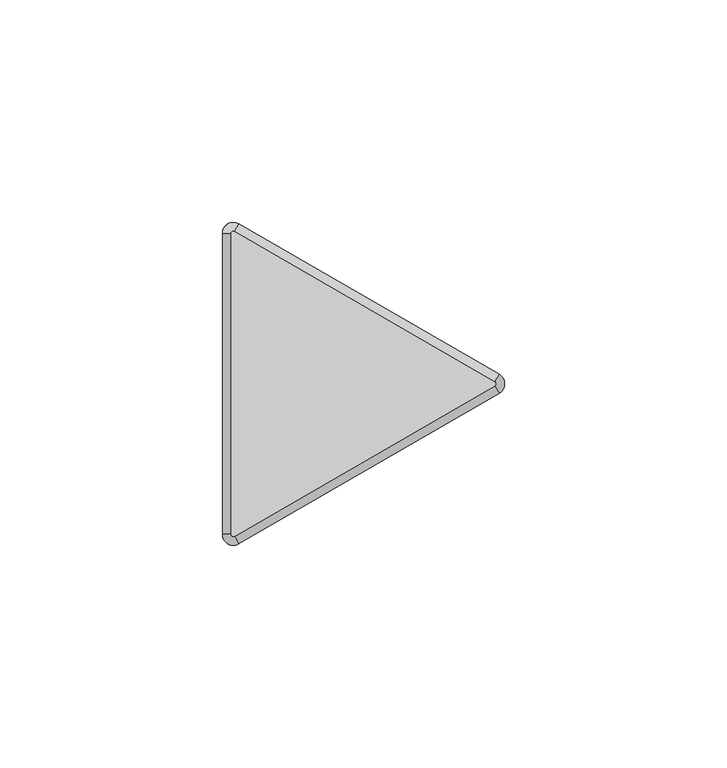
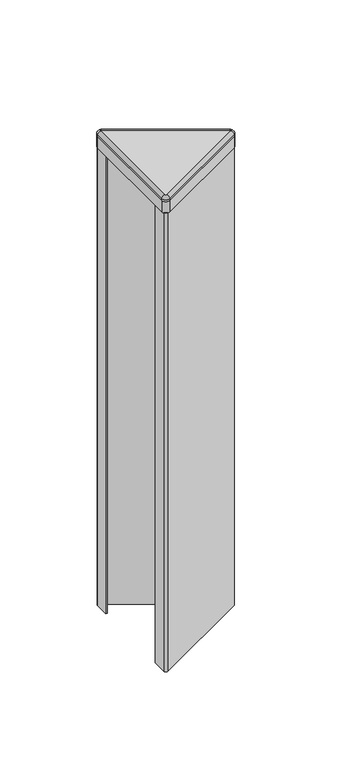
"""IFC4 building model written with IfcOpenShell, lengths in millimetres: furniture geometry, Steelcase - Answer Solution - Panel - 120deg Change-of-Height Trim - Thin : Y Corner - 12H for 54H App."""

import ifcopenshell
import ifcopenshell.guid

model = None  # the IFC model being written
_history = None  # IfcOwnerHistory: only IFC2X3 demands one
_inside = {}  # id of a spatial element -> (the spatial element, [elements in it])
_under = {}  # id of a project, library or spatial element -> (it, [spatial elements below it])
_declared = {}  # id of a project -> (the project, [libraries it declares])
_typed = {}  # id of a type object -> (the type object, [elements of that type])
_made_of = {}  # id of a material, layer set ... -> (it, [elements and type objects made of it])


def new_model(schema):
    """Start an empty IFC model of exactly this schema.

    Asked for "IFC4X3", IfcOpenShell would pick the latest addendum, in which some entities
    have other attributes; the version numbers below select the first issue.
    IFC2X3 requires an IfcOwnerHistory on every rooted entity: one is made here for all.
    """
    global model, _history
    if schema == "IFC4X3":
        model = ifcopenshell.file(schema_version=(4, 3, 0, 0))
    else:
        model = ifcopenshell.file(schema=schema)
    _inside.clear()
    _under.clear()
    _declared.clear()
    _typed.clear()
    _made_of.clear()
    _history = None
    if model.schema == "IFC2X3":
        org = make("IfcOrganization", Name="unknown")
        user = make(
            "IfcPersonAndOrganization",
            ThePerson=make("IfcPerson", FamilyName="unknown"),
            TheOrganization=org,
        )
        app = make(
            "IfcApplication",
            ApplicationDeveloper=org,
            Version="unknown",
            ApplicationFullName="unknown",
            ApplicationIdentifier="unknown",
        )
        _history = make(
            "IfcOwnerHistory",
            OwningUser=user,
            OwningApplication=app,
            ChangeAction="ADDED",
            CreationDate=0,
        )
    return model


def make(cls, **values):
    """One entity of the class cls with the attributes given. An attribute that is None is left unset."""
    return model.create_entity(
        cls, **{name: value for name, value in values.items() if value is not None}
    )


def rooted(cls, **values):
    """An entity with a GlobalId (a new one), such as an element, a storey or a relation."""
    return make(cls, GlobalId=ifcopenshell.guid.new(), OwnerHistory=_history, **values)


def si_unit(unit_type, name, prefix=None):
    """IfcSIUnit, for example si_unit("LENGTHUNIT", "METRE", prefix="MILLI")."""
    return make("IfcSIUnit", UnitType=unit_type, Prefix=prefix, Name=name)


def assignment(units):
    """IfcUnitAssignment: the units of a project."""
    return None if units is None else make("IfcUnitAssignment", Units=units)


def point(xyz):
    """IfcCartesianPoint."""
    return None if xyz is None else make("IfcCartesianPoint", Coordinates=xyz)


def direction(xyz):
    """IfcDirection."""
    return None if xyz is None else make("IfcDirection", DirectionRatios=xyz)


def frame(location, z_axis=None, x_axis=None):
    """IfcAxis2Placement3D, a coordinate frame: its origin and axes. An axis left out is left unset."""
    return make(
        "IfcAxis2Placement3D",
        Location=point(location),
        Axis=direction(z_axis),
        RefDirection=direction(x_axis),
    )


def frame_2d(location, x_axis=None):
    """IfcAxis2Placement2D, a coordinate frame in the plane: its origin and x axis."""
    return make(
        "IfcAxis2Placement2D", Location=point(location), RefDirection=direction(x_axis)
    )


def origin():
    """The frame at (0, 0, 0) with its axes left unset."""
    return frame((0.0, 0.0, 0.0))


def place(relative_to, where):
    """IfcLocalPlacement: puts the frame where relative to a parent placement (None: the world)."""
    return make(
        "IfcLocalPlacement", PlacementRelTo=relative_to, RelativePlacement=where
    )


def context(
    kind, dimensions, precision=None, world=None, true_north=None, identifier=None
):
    """IfcGeometricRepresentationContext, for example the 3D "Model" context."""
    return make(
        "IfcGeometricRepresentationContext",
        ContextIdentifier=identifier,
        ContextType=kind,
        CoordinateSpaceDimension=dimensions,
        Precision=precision,
        WorldCoordinateSystem=world,
        TrueNorth=true_north,
    )


def project(units=None, contexts=None):
    """IfcProject with its units and contexts."""
    return rooted(
        "IfcProject",
        Name="project",
        RepresentationContexts=contexts,
        UnitsInContext=assignment(units),
    )


def spatial(cls, under=None, at=None, **own):
    """A site, building, storey or space (cls), placed at a placement, below another one or the project."""
    s = rooted(cls, ObjectPlacement=at, **own)
    if under is not None:
        _under.setdefault(under.id(), (under, []))[1].append(s)
    return s


def polyline(points):
    """IfcPolyline through the points."""
    return make("IfcPolyline", Points=[point(p) for p in points])


def circle_curve(where, radius):
    """IfcCircle in the frame where."""
    return make("IfcCircle", Position=where, Radius=radius)


def ellipse_curve(where, semi_axis1, semi_axis2):
    """IfcEllipse in the frame where."""
    return make(
        "IfcEllipse", Position=where, SemiAxis1=semi_axis1, SemiAxis2=semi_axis2
    )


def trimmed(basis, trim1, trim2, sense, master):
    """IfcTrimmedCurve: the piece of a basis curve between two trims."""
    return make(
        "IfcTrimmedCurve",
        BasisCurve=basis,
        Trim1=trim1,
        Trim2=trim2,
        SenseAgreement=sense,
        MasterRepresentation=master,
    )


def segment(curve, same_sense, transition):
    """IfcCompositeCurveSegment."""
    return make(
        "IfcCompositeCurveSegment",
        Transition=transition,
        SameSense=same_sense,
        ParentCurve=curve,
    )


def composite_curve(segments, self_intersect=None):
    """IfcCompositeCurve: segments joined end to end."""
    return make("IfcCompositeCurve", Segments=segments, SelfIntersect=self_intersect)


def outline(outer, holes=None, kind="AREA"):
    """IfcArbitraryClosedProfileDef: a profile drawn as a closed curve; with holes, ...WithVoids."""
    if holes is None:
        return make("IfcArbitraryClosedProfileDef", ProfileType=kind, OuterCurve=outer)
    return make(
        "IfcArbitraryProfileDefWithVoids",
        ProfileType=kind,
        OuterCurve=outer,
        InnerCurves=holes,
    )


def extrude(swept, where, along, depth):
    """IfcExtrudedAreaSolid: the profile swept, set in the frame where, extruded along a direction by depth."""
    return make(
        "IfcExtrudedAreaSolid",
        SweptArea=swept,
        Position=where,
        ExtrudedDirection=direction(along),
        Depth=depth,
    )


def shape(context_of_items, identifier, shape_type, items):
    """IfcShapeRepresentation: the items that make up one representation, for example the "Body"."""
    return make(
        "IfcShapeRepresentation",
        ContextOfItems=context_of_items,
        RepresentationIdentifier=identifier,
        RepresentationType=shape_type,
        Items=items,
    )


def source(mapping_origin, context_of_items, identifier, shape_type, items):
    """IfcRepresentationMap: a shape defined once, which mapped items show again and again."""
    return make(
        "IfcRepresentationMap",
        MappingOrigin=mapping_origin,
        MappedRepresentation=shape(context_of_items, identifier, shape_type, items),
    )


def transform(
    local_origin,
    x_axis=None,
    y_axis=None,
    z_axis=None,
    scale=None,
    scale2=None,
    scale3=None,
    uniform=True,
):
    """IfcCartesianTransformationOperator3D, or its non-uniform kind. x_axis, y_axis, z_axis: its Axis1, 2, 3."""
    if uniform:
        return make(
            "IfcCartesianTransformationOperator3D",
            Axis1=direction(x_axis),
            Axis2=direction(y_axis),
            LocalOrigin=point(local_origin),
            Scale=scale,
            Axis3=direction(z_axis),
        )
    return make(
        "IfcCartesianTransformationOperator3DnonUniform",
        Axis1=direction(x_axis),
        Axis2=direction(y_axis),
        LocalOrigin=point(local_origin),
        Scale=scale,
        Axis3=direction(z_axis),
        Scale2=scale2,
        Scale3=scale3,
    )


def mapped(mapping_source, mapping_target):
    """IfcMappedItem: shows the shape of a source again, moved by a transform."""
    return make(
        "IfcMappedItem", MappingSource=mapping_source, MappingTarget=mapping_target
    )


def made_of(thing, what):
    """Note that an element or type object is made of a material, layer set ...; save() writes the relation."""
    if what is not None:
        _made_of.setdefault(what.id(), (what, []))[1].append(thing)
    return thing


def element(
    cls,
    number,
    at=None,
    inside=None,
    cuts=None,
    type_object=None,
    material=None,
    context=None,
    identifier="Body",
    shape_type=None,
    held_by="IfcProductDefinitionShape",
    body=None,
    shapes=None,
    **own,
):
    """One element of the class cls, such as IfcWall. Its Tag is "e" and its number.

    at: its placement. inside: the storey or other place that contains it. cuts: it is an
    opening in that element (IfcRelVoidsElement). A single representation is given by context,
    identifier, shape_type and body (its items); several are given by shapes. held_by: the class
    of the entity that holds the representations. save() writes the other relations.
    """
    e = rooted(cls, Tag="e%d" % number, ObjectPlacement=at, **own)
    if body is not None:
        shapes = [shape(context, identifier, shape_type, body)]
    if shapes is not None:
        e.Representation = make(held_by, Representations=shapes)
    if inside is not None:
        _inside.setdefault(inside.id(), (inside, []))[1].append(e)
    if cuts is not None:
        rooted(
            "IfcRelVoidsElement", RelatingBuildingElement=cuts, RelatedOpeningElement=e
        )
    if type_object is not None:
        _typed.setdefault(type_object.id(), (type_object, []))[1].append(e)
    return made_of(e, material)


def aggregate(whole, parts):
    """IfcRelAggregates: a whole, such as a stair, and the parts it consists of."""
    return rooted("IfcRelAggregates", RelatingObject=whole, RelatedObjects=parts)


def save(model, path):
    """Write the relations noted so far, then the file.

    IfcRelAggregates (storeys below a building ...), IfcRelContainedInSpatialStructure (elements
    in a storey), IfcRelDefinesByType, IfcRelAssociatesMaterial and IfcRelDeclares: one each for
    every whole, place, type object, material and project.
    """
    for whole, parts in _under.values():
        aggregate(whole, parts)
    for where, things in _inside.values():
        rooted(
            "IfcRelContainedInSpatialStructure",
            RelatedElements=things,
            RelatingStructure=where,
        )
    for kind, things in _typed.values():
        rooted("IfcRelDefinesByType", RelatedObjects=things, RelatingType=kind)
    for what, things in _made_of.values():
        rooted("IfcRelAssociatesMaterial", RelatedObjects=things, RelatingMaterial=what)
    for by, libraries in _declared.values():
        rooted("IfcRelDeclares", RelatingContext=by, RelatedDefinitions=libraries)
    model.write(path)


def plane_surface(at):
    """IfcPlane: the flat surface through the origin of the frame at, square to its z axis."""
    return make("IfcPlane", Position=at)


def cylinder_surface(at, radius):
    """IfcCylindricalSurface: all points at the distance radius from the z axis of the frame at."""
    return make("IfcCylindricalSurface", Position=at, Radius=radius)


def revolved_surface(curve, axis_point, axis_direction):
    """IfcSurfaceOfRevolution: the curve turned about the line through axis_point along axis_direction."""
    return make(
        "IfcSurfaceOfRevolution",
        SweptCurve=make("IfcArbitraryOpenProfileDef", ProfileType="CURVE", Curve=curve),
        AxisPosition=make("IfcAxis1Placement", Location=point(axis_point), Axis=direction(axis_direction)),
    )


def advanced_brep(points, edges, surfaces, faces):
    """IfcAdvancedBrep: a solid bounded by faces that lie on surfaces and meet in shared edges.

    An edge is (start, end): straight between two places in points (the first is 0);
    or (start, end, curve); or (start, end, curve, False) where it runs against its curve.
    A face is (place in surfaces, loops), or (place, loops, False) where it looks against
    its surface's normal. A loop lists edges by number (the first is 1), with a minus sign
    where the edge is run from its end to its start. The first loop is the outer one.
    """
    corners = [point(p) for p in points]
    vertices = [make("IfcVertexPoint", VertexGeometry=c) for c in corners]
    made = []
    for start, end, *more in edges:
        made.append(
            make(
                "IfcEdgeCurve",
                EdgeStart=vertices[start],
                EdgeEnd=vertices[end],
                EdgeGeometry=more[0] if more else make("IfcPolyline", Points=[corners[start], corners[end]]),
                SameSense=more[1] if len(more) > 1 else True,
            )
        )
    hull = []
    for where, loops, *sense in faces:
        bounds = []
        for j, loop in enumerate(loops):
            ring = [make("IfcOrientedEdge", EdgeElement=made[abs(k) - 1], Orientation=k > 0) for k in loop]
            bounds.append(
                make(
                    "IfcFaceOuterBound" if j == 0 else "IfcFaceBound",
                    Bound=make("IfcEdgeLoop", EdgeList=ring),
                    Orientation=True,
                )
            )
        hull.append(make("IfcAdvancedFace", Bounds=bounds, FaceSurface=surfaces[where], SameSense=sense[0] if sense else True))
    return make("IfcAdvancedBrep", Outer=make("IfcClosedShell", CfsFaces=hull))


def furniture_3466ec60(model_context):
    return source(origin(), model_context, "Body", "SolidModel", [
        advanced_brep(
        [(-10.518645, -37.3335529, 1376.0628978), (-14.2052101, -35.2051135, 1376.0628978), (-14.2052101, -35.2051135, 1375.1164663), (-10.518645, -37.3335529, 1375.1164663), (-11.46175, -35.7000471, 1377.95), (-12.319, -35.2051135, 1377.95), (-11.46175, -35.7000471, 1375.1164663), (-12.319, -35.2051135, 1375.1164663), (48.0429908, -3.5229767, 1375.1164663), (48.0429908, -3.5229767, 1376.0628978), (47.0998858, -1.8894709, 1377.95), (47.0998858, -1.8894709, 1375.1164663), (48.0429908, 0.733902, 1376.0628978), (48.0429908, 0.733902, 1375.1164663), (47.0998858, -0.8996038, 1377.95), (47.0998858, -0.8996038, 1375.1164663), (-10.518645, 34.5444782, 1375.1164663), (-14.2052101, 32.4160388, 1375.1164663), (-11.46175, 32.9109723, 1375.1164663), (-12.319, 32.4160388, 1375.1164663), (-10.518645, 34.5444782, 1376.0628978), (-11.46175, 32.9109723, 1377.95), (-14.2052101, 32.4160388, 1376.0628978), (-12.319, 32.4160388, 1377.95)],
        [
            (0, 1, circle_curve(frame((-11.7475, -35.2051135, 1376.0628978), z_axis=(0.0, 0.0, -1.0), x_axis=(-1.0, 0.0, 0.0)), 2.4577101)),
            (1, 2),
            (2, 3, circle_curve(frame((-11.7475, -35.2051135, 1375.1164663), z_axis=(0.0, 0.0, 1.0), x_axis=(-1.0, 0.0, 0.0)), 2.4577101)),
            (3, 0),
            (4, 5, circle_curve(frame((-11.7475, -35.2051135, 1377.95), z_axis=(0.0, 0.0, -1.0), x_axis=(-1.0, 0.0, 0.0)), 0.5715)),
            (5, 1, circle_curve(frame((-12.3181076, -35.2051135, 1376.0628978), z_axis=(0.0, -1.0, 0.0), x_axis=(1.0, 0.0, 0.0)), 1.8871024)),
            (0, 4, circle_curve(frame((-11.4621962, -35.6992743, 1376.0628978), z_axis=(-0.8660254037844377, -0.5000000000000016, 0.0), x_axis=(-0.5000000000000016, 0.8660254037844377, 0.0)), 1.8871024)),
            (6, 7, circle_curve(frame((-11.7475, -35.2051135, 1375.1164663), z_axis=(0.0, 0.0, -1.0), x_axis=(-1.0, 0.0, 0.0)), 0.5715)),
            (7, 5),
            (4, 6),
            (3, 8),
            (8, 9),
            (9, 0),
            (9, 10, circle_curve(frame((47.0994396, -1.8886981, 1376.0628978), z_axis=(-0.8660254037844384, -0.5000000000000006, 0.0), x_axis=(-0.5000000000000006, 0.8660254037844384, 0.0)), 1.8871024)),
            (10, 4),
            (10, 11),
            (11, 6),
            (12, 9, circle_curve(frame((46.8141358, -1.3945374, 1376.0628978), z_axis=(0.0, 0.0, -1.0), x_axis=(0.4999999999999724, -0.8660254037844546, 0.0)), 2.4577101)),
            (8, 13, circle_curve(frame((46.8141358, -1.3945374, 1375.1164663), z_axis=(0.0, 0.0, 1.0), x_axis=(0.4999999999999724, -0.8660254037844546, 0.0)), 2.4577101)),
            (13, 12),
            (14, 10, circle_curve(frame((46.8141358, -1.3945374, 1377.95), z_axis=(0.0, 0.0, -1.0), x_axis=(0.4999999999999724, -0.8660254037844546, 0.0)), 0.5715)),
            (12, 14, circle_curve(frame((47.0994396, -0.9003766, 1376.0628978), z_axis=(0.8660254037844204, -0.5000000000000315, 0.0), x_axis=(-0.5000000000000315, -0.8660254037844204, 0.0)), 1.8871024)),
            (15, 11, circle_curve(frame((46.8141358, -1.3945374, 1375.1164663), z_axis=(0.0, 0.0, -1.0), x_axis=(0.4999999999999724, -0.8660254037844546, 0.0)), 0.5715)),
            (14, 15),
            (16, 13),
            (2, 17),
            (17, 16, circle_curve(frame((-11.7475, 32.4160388, 1375.1164663), z_axis=(0.0, 0.0, -1.0), x_axis=(0.500000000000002, 0.8660254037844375, 0.0)), 2.4577101)),
            (15, 18),
            (18, 19, circle_curve(frame((-11.7475, 32.4160388, 1375.1164663), z_axis=(0.0, 0.0, 1.0), x_axis=(0.500000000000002, 0.8660254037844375, 0.0)), 0.5715)),
            (19, 7),
            (16, 20),
            (20, 12),
            (20, 21, circle_curve(frame((-11.4621962, 32.9101995, 1376.0628978), z_axis=(0.8660254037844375, -0.5000000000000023, 0.0), x_axis=(-0.5000000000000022, -0.8660254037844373, 0.0)), 1.8871024)),
            (21, 14),
            (21, 18),
            (22, 20, circle_curve(frame((-11.7475, 32.4160388, 1376.0628978), z_axis=(0.0, 0.0, -1.0), x_axis=(0.500000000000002, 0.8660254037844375, 0.0)), 2.4577101)),
            (17, 22),
            (23, 21, circle_curve(frame((-11.7475, 32.4160388, 1377.95), z_axis=(0.0, 0.0, -1.0), x_axis=(0.500000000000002, 0.8660254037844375, 0.0)), 0.5715)),
            (22, 23, circle_curve(frame((-12.3181076, 32.4160388, 1376.0628978), z_axis=(0.0, 1.0, 0.0), x_axis=(1.0, 0.0, 0.0)), 1.8871024)),
            (23, 19),
            (1, 22),
            (5, 23),
        ],
        [
            cylinder_surface(frame((-11.7475, -35.2051135, 0.0), z_axis=(0.0, 0.0, 1.0), x_axis=(-1.0, 0.0, 0.0)), 2.4577101),
            revolved_surface(trimmed(ellipse_curve(frame((-12.3181076, -35.2051135, 1376.0628978), z_axis=(0.0, 1.0, 0.0), x_axis=(1.0, 0.0, 0.0)), 1.8871024, 1.8871024), [point((-14.2052101, -35.2051135, 1376.0628978))], [point((-12.319, -35.2051135, 1377.95))], True, "CARTESIAN"), (-11.7475, -35.2051135, 0.0), (0.0, 0.0, 1.0)),
            revolved_surface(polyline([(-12.319, -35.2051135, 1377.95), (-12.319, -35.2051135, 1375.1164663)]), (-11.7475, -35.2051135, 0.0), (0.0, 0.0, 1.0)),
            plane_surface(frame((-10.518645, -37.3335529, 1375.1164663), z_axis=(0.49999999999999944, -0.866025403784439, 0.0), x_axis=(0.866025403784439, 0.49999999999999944, 0.0))),
            cylinder_surface(frame((-11.4621962, -35.6992743, 1376.0628978), z_axis=(-0.8660254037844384, -0.5000000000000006, 0.0), x_axis=(-0.5000000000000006, 0.8660254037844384, 0.0)), 1.8871024),
            plane_surface(frame((-11.46175, -35.7000471, 1377.95), z_axis=(-0.49999999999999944, 0.866025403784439, 0.0), x_axis=(0.866025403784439, 0.49999999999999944, 0.0))),
            cylinder_surface(frame((46.8141358, -1.3945374, 0.0), z_axis=(0.0, 0.0, 1.0), x_axis=(0.4999999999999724, -0.8660254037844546, 0.0)), 2.4577101),
            revolved_surface(trimmed(ellipse_curve(frame((47.0994396, -1.8886981, 1376.0628978), z_axis=(-0.8660254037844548, -0.499999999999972, 0.0), x_axis=(-0.499999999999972, 0.8660254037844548, 0.0)), 1.8871024, 1.8871024), [point((48.0429908, -3.5229767, 1376.0628978))], [point((47.0998858, -1.8894709, 1377.95))], True, "CARTESIAN"), (46.8141358, -1.3945374, 0.0), (0.0, 0.0, 1.0)),
            revolved_surface(polyline([(47.09988579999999, -1.8894709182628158, 1377.95), (47.09988579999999, -1.8894709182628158, 1375.1164663)]), (46.8141358, -1.3945374, 0.0), (0.0, 0.0, 1.0)),
            plane_surface(frame((47.0998858, -0.8996038, 1375.1164663), z_axis=(0.0, 0.0, -1.0000000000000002), x_axis=(-0.8660254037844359, 0.5000000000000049, 0.0))),
            plane_surface(frame((48.0429908, 0.733902, 1375.1164663), z_axis=(0.5000000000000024, 0.8660254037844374, 0.0), x_axis=(-0.8660254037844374, 0.5000000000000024, 0.0))),
            cylinder_surface(frame((47.0994396, -0.9003766, 1376.0628978), z_axis=(0.8660254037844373, -0.5000000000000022, 0.0), x_axis=(-0.5000000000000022, -0.8660254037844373, 0.0)), 1.8871024),
            plane_surface(frame((47.0998858, -0.8996038, 1377.95), z_axis=(-0.5000000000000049, -0.8660254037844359, 0.0), x_axis=(-0.8660254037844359, 0.5000000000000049, 0.0))),
            cylinder_surface(frame((-11.7475, 32.4160388, 0.0), z_axis=(0.0, 0.0, 1.0), x_axis=(0.500000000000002, 0.8660254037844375, 0.0)), 2.4577101),
            revolved_surface(trimmed(ellipse_curve(frame((-11.4621962, 32.9101995, 1376.0628978), z_axis=(0.866025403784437, -0.5000000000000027, 0.0), x_axis=(-0.5000000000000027, -0.866025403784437, 0.0)), 1.8871024, 1.8871024), [point((-10.518645, 34.5444782, 1376.0628978))], [point((-11.46175, 32.9109723, 1377.95))], True, "CARTESIAN"), (-11.7475, 32.4160388, 0.0), (0.0, 0.0, 1.0)),
            revolved_surface(polyline([(-11.461749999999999, 32.91097231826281, 1377.95), (-11.461749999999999, 32.91097231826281, 1375.1164663)]), (-11.7475, 32.4160388, 0.0), (0.0, 0.0, 1.0)),
            plane_surface(frame((-14.2052101, 32.4160388, 1375.1164663), z_axis=(-1.0, 0.0, 0.0), x_axis=(0.0, -1.0, 0.0))),
            cylinder_surface(frame((-12.3181076, 32.4160388, 1376.0628978), z_axis=(0.0, 1.0, 0.0), x_axis=(1.0, 0.0, 0.0)), 1.8871024),
            plane_surface(frame((-12.319, 32.4160388, 1377.95), z_axis=(1.0, 0.0, 0.0), x_axis=(0.0, -1.0, 0.0))),
        ],
        [
            (0, [[1, 2, 3, 4]]),
            (1, [[5, 6, -1, 7]]),
            (2, [[8, 9, -5, 10]]),
            (3, [[-4, 11, 12, 13]]),
            (4, [[-7, -13, 14, 15]]),
            (5, [[-10, -15, 16, 17]]),
            (6, [[18, -12, 19, 20]]),
            (7, [[21, -14, -18, 22]]),
            (8, [[23, -16, -21, 24]]),
            (9, [[25, -19, -11, -3, 26, 27], [-8, -17, -23, 28, 29, 30]]),
            (10, [[-20, -25, 31, 32]]),
            (11, [[-22, -32, 33, 34]]),
            (12, [[-24, -34, 35, -28]]),
            (13, [[36, -31, -27, 37]]),
            (14, [[38, -33, -36, 39]]),
            (15, [[-29, -35, -38, 40]]),
            (16, [[-37, -26, -2, 41]]),
            (17, [[-39, -41, -6, 42]]),
            (18, [[-40, -42, -9, -30]]),
        ],
    ),
        extrude(outline(composite_curve([segment(trimmed(circle_curve(frame_2d((47.9522001, -1.3945374)), 1.2978651), [point((48.6011327, -0.2705532))], [point((48.6011327, -2.5185215))], False, "CARTESIAN"), True, "CONTINUOUS"), segment(polyline([(48.6011327, -2.5185215), (-11.6879343, -37.3264306)]), True, "CONTINUOUS"), segment(trimmed(circle_curve(frame_2d((-12.3300896, -36.2141852)), 1.2843104), [point((-11.6879343, -37.3264306))], [point((-13.6144, -36.2141852))], False, "CARTESIAN"), True, "CONTINUOUS"), segment(polyline([(-13.6144, -36.2141852), (-13.6144, -27.3303775), (-12.7, -27.3303775), (-12.7, -36.8548888), (48.7191304, -1.3945374), (-12.7, 34.0658141), (-12.7, 24.5413027), (-13.6144, 24.5413027), (-13.6144, 33.4106259)]), True, "CONTINUOUS"), segment(trimmed(circle_curve(frame_2d((-12.3217269, 33.4106259)), 1.2926731), [point((-13.6144, 33.4106259))], [point((-11.6753904, 34.5301136))], False, "CARTESIAN"), True, "CONTINUOUS"), segment(polyline([(-11.6753904, 34.5301136), (48.6011327, -0.2705532)]), True, "CONTINUOUS")], self_intersect=False)), frame((0.0, 0.0, 1073.15), z_axis=(0.0, 0.0, 1.0), x_axis=(1.0, 0.0, 0.0)), (0.0, 0.0, 1.0), 294.64),
        extrude(outline(composite_curve([segment(trimmed(circle_curve(frame_2d((46.8261011, -1.3945374)), 0.5655173), [point((47.1088598, -0.904785))], [point((47.1088598, -1.8842897))], False, "CARTESIAN"), True, "CONTINUOUS"), segment(polyline([(47.1088598, -1.8842897), (-11.4505119, -35.6935587)]), True, "CONTINUOUS"), segment(trimmed(circle_curve(frame_2d((-11.7400079, -35.1921369)), 0.5789921), [point((-11.4505119, -35.6935587))], [point((-12.319, -35.1921369))], False, "CARTESIAN"), True, "CONTINUOUS"), segment(polyline([(-12.319, -35.1921369), (-12.319, 32.3985888)]), True, "CONTINUOUS"), segment(trimmed(circle_curve(frame_2d((-11.7374252, 32.3985888)), 0.5815748), [point((-12.319, 32.3985888))], [point((-11.4466378, 32.9022473))], False, "CARTESIAN"), True, "CONTINUOUS"), segment(polyline([(-11.4466378, 32.9022473), (47.1088598, -0.904785)]), True, "CONTINUOUS")], self_intersect=False)), frame((0.0, 0.0, 1375.1164663), z_axis=(0.0, 0.0, 1.0), x_axis=(1.0, 0.0, 0.0)), (0.0, 0.0, 1.0), 2.8335337),
        extrude(outline(composite_curve([segment(trimmed(circle_curve(frame_2d((46.8140443, -1.3945374)), 2.4577558), [point((48.0429222, 0.7339416))], [point((48.0429222, -3.5230163))], False, "CARTESIAN"), True, "CONTINUOUS"), segment(polyline([(48.0429222, -3.5230163), (-10.518058, -37.333214)]), True, "CONTINUOUS"), segment(trimmed(circle_curve(frame_2d((-11.7471087, -35.2044357)), 2.4581014), [point((-10.518058, -37.333214))], [point((-14.2052101, -35.2044357))], False, "CARTESIAN"), True, "CONTINUOUS"), segment(polyline([(-14.2052101, -35.2044357), (-14.2052101, 32.4160388)]), True, "CONTINUOUS"), segment(trimmed(circle_curve(frame_2d((-11.7475, 32.4160388)), 2.4577101), [point((-14.2052101, 32.4160388))], [point((-10.518645, 34.5444782))], False, "CARTESIAN"), True, "CONTINUOUS"), segment(polyline([(-10.518645, 34.5444782), (48.0429222, 0.7339416)]), True, "CONTINUOUS")], self_intersect=False)), frame((0.0, 0.0, 1367.79), z_axis=(0.0, 0.0, 1.0), x_axis=(1.0, 0.0, 0.0)), (0.0, 0.0, 1.0), 7.3264663),
    ])


if __name__ == "__main__":
    model = new_model("IFC4")
    model_context = context("Model", 3, world=origin())
    ifc_project = project(units=[si_unit("LENGTHUNIT", "METRE", prefix="MILLI")], contexts=[model_context])
    site = spatial("IfcSite", under=ifc_project)
    building = spatial("IfcBuilding", under=site)
    placement = place(None, origin())
    furniture_shape = furniture_3466ec60(model_context)
    element("IfcFurniture", 1, ObjectType="Steelcase - Answer Solution - Panel - 120deg Change-of-Height Trim - Thin : Y Corner - 12H for 54H App", at=placement, inside=building, context=model_context, shape_type="MappedRepresentation", body=[
        mapped(furniture_shape, transform((0.0, 0.0, 0.0), x_axis=(1.0, 0.0, 0.0), y_axis=(0.0, 1.0, 0.0), z_axis=(0.0, 0.0, 1.0))),
    ])
    save(model, "model.ifc")
